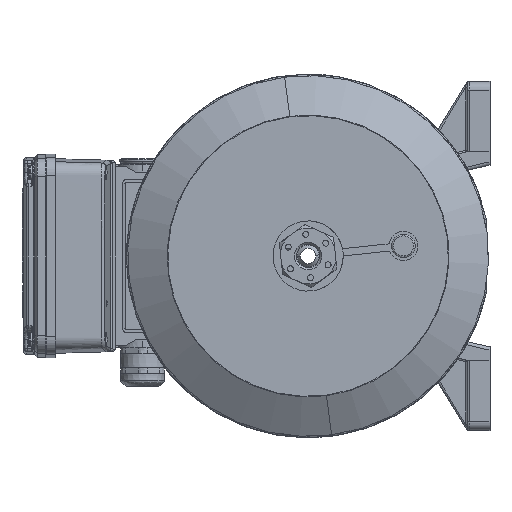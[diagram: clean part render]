
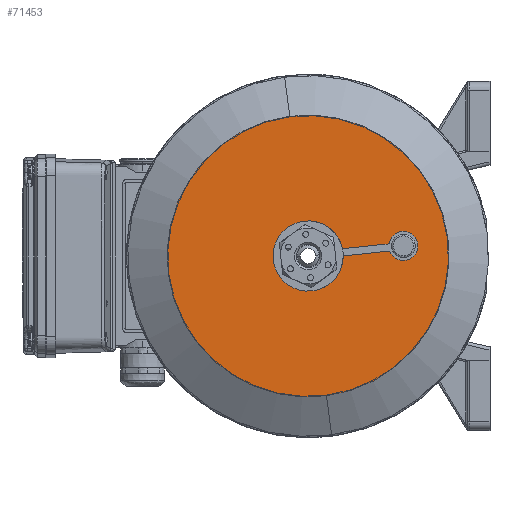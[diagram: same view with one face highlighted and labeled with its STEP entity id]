
A CAD part, left-side view. The second image highlights one B-rep face of the part: STEP entity #71453.
In plain terms, the highlighted planar face has unit normal (-1, 0, 0).
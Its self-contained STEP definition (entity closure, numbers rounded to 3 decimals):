
#3460 = AXIS2_PLACEMENT_3D ( 'NONE', #97860, #80572, #25284 ) ;
#4989 = DIRECTION ( 'NONE',  ( 1., 0., 0. ) ) ;
#6578 = CIRCLE ( 'NONE', #98258, 77.5 ) ;
#9295 = EDGE_CURVE ( 'NONE', #45782, #10524, #38966, .T. ) ;
#10524 = VERTEX_POINT ( 'NONE', #55933 ) ;
#12932 = DIRECTION ( 'NONE',  ( 0., 0.13, 0.992 ) ) ;
#13134 = CARTESIAN_POINT ( 'NONE',  ( -291.538, 37.63, -1.754 ) ) ;
#13479 = PLANE ( 'NONE',  #104859 ) ;
#14409 = DIRECTION ( 'NONE',  ( 1., 0., 0. ) ) ;
#22341 = EDGE_CURVE ( 'NONE', #88617, #90127, #34126, .T. ) ;
#22775 = FACE_BOUND ( 'NONE', #23361, .T. ) ;
#23361 = EDGE_LOOP ( 'NONE', ( #84143, #67828 ) ) ;
#25284 = DIRECTION ( 'NONE',  ( 0., 0.13, 0.992 ) ) ;
#25824 = AXIS2_PLACEMENT_3D ( 'NONE', #77838, #4989, #12932 ) ;
#30282 = DIRECTION ( 'NONE',  ( 0., 0.13, 0.992 ) ) ;
#32230 = EDGE_LOOP ( 'NONE', ( #86197, #82993 ) ) ;
#34126 = CIRCLE ( 'NONE', #3460, 77.5 ) ;
#35936 = EDGE_CURVE ( 'NONE', #90127, #88617, #6578, .T. ) ;
#36139 = CARTESIAN_POINT ( 'NONE',  ( -291.538, 24.244, 0. ) ) ;
#37224 = DIRECTION ( 'NONE',  ( 1., 0., 0. ) ) ;
#38966 = CIRCLE ( 'NONE', #25824, 13.5 ) ;
#45208 = CARTESIAN_POINT ( 'NONE',  ( -291.538, 22.49, -13.386 ) ) ;
#45782 = VERTEX_POINT ( 'NONE', #45208 ) ;
#51558 = CARTESIAN_POINT ( 'NONE',  ( -291.538, 34.313, 76.843 ) ) ;
#52440 = FACE_OUTER_BOUND ( 'NONE', #32230, .T. ) ;
#55933 = CARTESIAN_POINT ( 'NONE',  ( -291.538, 25.998, 13.386 ) ) ;
#56913 = AXIS2_PLACEMENT_3D ( 'NONE', #63877, #14409, #30282 ) ;
#62142 = DIRECTION ( 'NONE',  ( 0., 0.13, 0.992 ) ) ;
#63877 = CARTESIAN_POINT ( 'NONE',  ( -291.538, 24.244, 0. ) ) ;
#67004 = CIRCLE ( 'NONE', #56913, 13.5 ) ;
#67828 = ORIENTED_EDGE ( 'NONE', *, *, #9295, .T. ) ;
#71453 = ADVANCED_FACE ( 'NONE', ( #52440, #22775 ), #13479, .T. ) ;
#77838 = CARTESIAN_POINT ( 'NONE',  ( -291.538, 24.244, 0. ) ) ;
#80572 = DIRECTION ( 'NONE',  ( 1., 0., 0. ) ) ;
#82993 = ORIENTED_EDGE ( 'NONE', *, *, #35936, .F. ) ;
#84143 = ORIENTED_EDGE ( 'NONE', *, *, #106825, .T. ) ;
#85978 = CARTESIAN_POINT ( 'NONE',  ( -291.538, 14.175, -76.843 ) ) ;
#86197 = ORIENTED_EDGE ( 'NONE', *, *, #22341, .F. ) ;
#88617 = VERTEX_POINT ( 'NONE', #51558 ) ;
#90127 = VERTEX_POINT ( 'NONE', #85978 ) ;
#96064 = DIRECTION ( 'NONE',  ( 0., -0.13, -0.992 ) ) ;
#96426 = DIRECTION ( 'NONE',  ( -1., 0., 0. ) ) ;
#97860 = CARTESIAN_POINT ( 'NONE',  ( -291.538, 24.244, 0. ) ) ;
#98258 = AXIS2_PLACEMENT_3D ( 'NONE', #36139, #37224, #62142 ) ;
#104859 = AXIS2_PLACEMENT_3D ( 'NONE', #13134, #96426, #96064 ) ;
#106825 = EDGE_CURVE ( 'NONE', #10524, #45782, #67004, .T. ) ;
